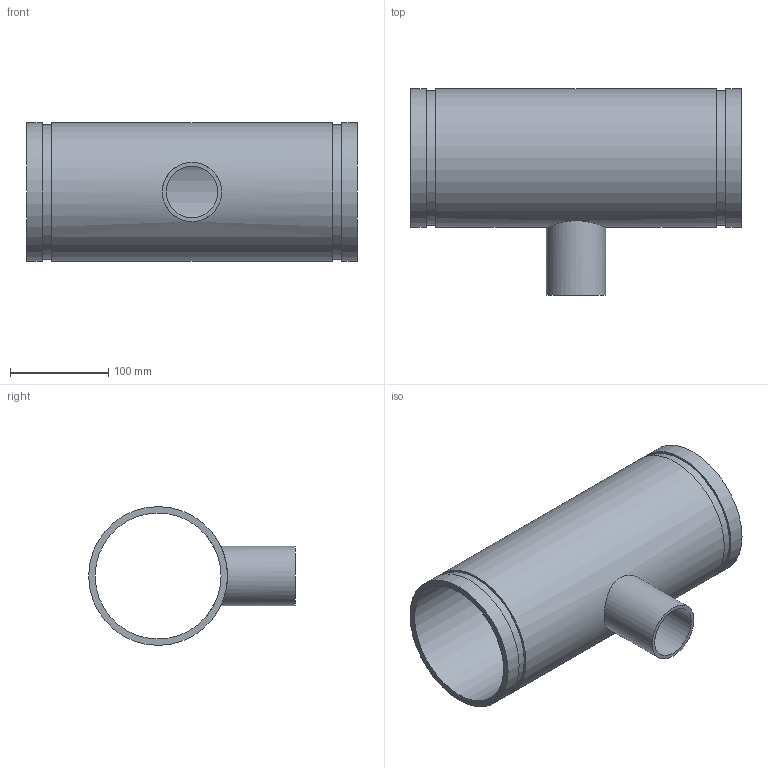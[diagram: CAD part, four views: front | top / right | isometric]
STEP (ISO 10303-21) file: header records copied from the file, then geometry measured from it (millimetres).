
FILE_DESCRIPTION(/* description */ ('VIC REDUCING TEE No 29T FFT (OGSxMPT)','CAx-IF Rec.Pracs.---Representation and Presentation of Product Manufacturing Information (PMI)---4.0---2014-10-13'),/* implementation_level */ '2;1');
FILE_NAME(/* name */ 'C:\Users\kkamble\AppData\Roaming\Autodesk\ApplicationPlugins\Back Up\Victaulic_IPS_Tee Reducing_No 29T FFT (OGSxMPT)\Victaulic_IPS_Tee Reducing_No 29T FFT (OGSxMPT)_05.0x02.0 (125x50).stp',/* time_stamp */ '2020-09-16T22:38:12+05:00',/* author */ ('CORINNE GRAY'),/* organization */ ('Victaulic'),/* preprocessor_version */ 'ST-DEVELOPER v17.2',/* originating_system */ 'Autodesk Inventor 2019',/* authorisation */ '');
FILE_SCHEMA (('AP242_MANAGED_MODEL_BASED_3D_ENGINEERING_MIM_LF { 1 0 10303 442 1 1 4 }'));
Length unit declared in the file: inch
Products named in the file (1): 29 FFT-05.0x02.0
Bounding box: 336.8 x 210.35 x 141.3 mm (x, y, z)
Volume: 951982.5 mm3; surface area: 316374.9 mm2
Topology: 1 solids, 1 shells, 15 faces, 32 edges, 24 vertices
Faces by surface type: cylinder 8, plane 7
Full cylindrical faces by diameter (mm): 52.502 x1, 60.325 x1, 128.194 x1, 137.033 x2, 141.3 x3
Entity records: 709 total; most frequent: CARTESIAN_POINT 221, DIRECTION 106, ORIENTED_EDGE 64, AXIS2_PLACEMENT_3D 49, EDGE_CURVE 32, EDGE_LOOP 24, VERTEX_POINT 24, CIRCLE 20
